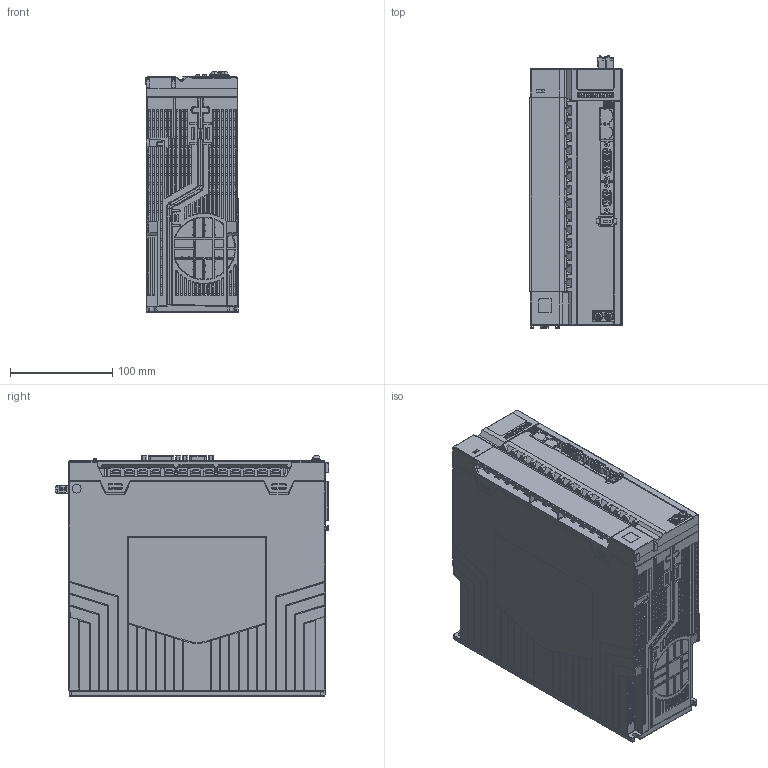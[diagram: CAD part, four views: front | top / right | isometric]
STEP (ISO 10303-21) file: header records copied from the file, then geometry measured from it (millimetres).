
FILE_DESCRIPTION((''),'2;1');
FILE_NAME('SV670-INT-SIZE-E_ASM','2024-02-03T',('10009991'),(''),'CREO PARAMETRIC BY PTC INC, 2015290','CREO PARAMETRIC BY PTC INC, 2015290','');
FILE_SCHEMA(('AUTOMOTIVE_DESIGN { 1 0 10303 214 1 1 1 1 }'));
Products named in the file (5): SV670-INT-SIZE-E; SV670-INT-SIZE-E-_ASM; PXC_1707854_01_FMCD-4PIN_2_1_1; 20211536_2_1_1; SV670-INT-SIZE-E_ASM
Assembly tree (4 placements, depth 3):
  SV670-INT-SIZE-E_ASM
    SV670-INT-SIZE-E-_ASM
      SV670-INT-SIZE-E
    PXC_1707854_01_FMCD-4PIN_2_1_1
    20211536_2_1_1
Bounding box: 90.35 x 267.3 x 235.11 mm (x, y, z)
Volume: 5028806.4 mm3; surface area: 251703.8 mm2
Topology: 3 solids, 8 shells, 6902 faces, 17890 edges, 11129 vertices
Faces by surface type: plane 4038, cylinder 1708, bspline 655, cone 212, torus 185, sphere 76, extrusion 28
Entity records: 270848 total; most frequent: CARTESIAN_POINT 103779, ORIENTED_EDGE 35608, DIRECTION 29004, EDGE_CURVE 17804, VECTOR 11320, LINE 11292, VERTEX_POINT 11127, AXIS2_PLACEMENT_3D 8842
